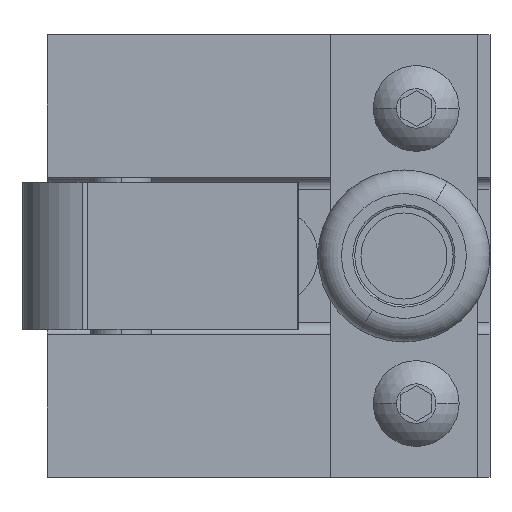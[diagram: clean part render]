
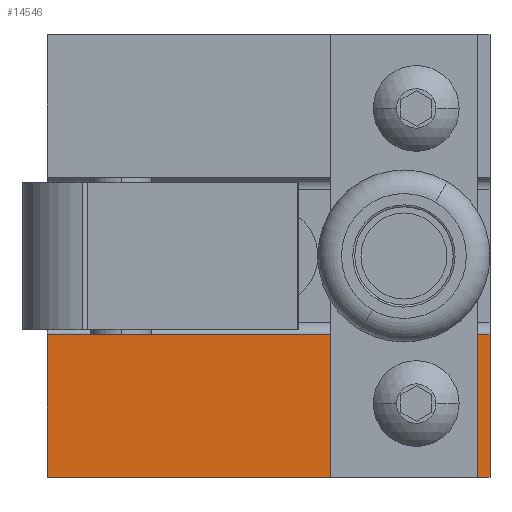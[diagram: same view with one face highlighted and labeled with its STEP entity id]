
A CAD part, left-side view. The second image highlights one B-rep face of the part: STEP entity #14546.
In plain terms, the highlighted planar face has unit normal (-1, 0, 0).
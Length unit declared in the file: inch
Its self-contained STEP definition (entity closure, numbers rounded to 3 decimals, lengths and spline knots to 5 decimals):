
#11769 = CARTESIAN_POINT ( 'NONE',  ( 2.43951, 4.12904, -1.75 ) ) ;
#11770 = CARTESIAN_POINT ( 'NONE',  ( 2.43951, 4.12904, -2. ) ) ;
#11794 = DIRECTION ( 'NONE',  ( 0., 0., 1. ) ) ;
#11795 = DIRECTION ( 'NONE',  ( -1., 0., 0. ) ) ;
#11796 = AXIS2_PLACEMENT_3D ( 'NONE', #11944, #11795, #11794 ) ;
#11797 = CIRCLE ( 'NONE', #11796, 0.125 ) ;
#11944 = CARTESIAN_POINT ( 'NONE',  ( 2.43951, 4.12904, -1.875 ) ) ;
#13572 = VERTEX_POINT ( 'NONE', #22166 ) ;
#13685 = EDGE_CURVE ( 'NONE', #13711, #13572, #22468, .T. ) ;
#13711 = VERTEX_POINT ( 'NONE', #22931 ) ;
#14401 = ORIENTED_EDGE ( 'NONE', *, *, #14402, .F. ) ;
#14402 = EDGE_CURVE ( 'NONE', #13572, #14488, #20001, .T. ) ;
#14406 = ORIENTED_EDGE ( 'NONE', *, *, #21936, .F. ) ;
#14464 = EDGE_LOOP ( 'NONE', ( #14401, #14489, #14465, #14514 ) ) ;
#14465 = ORIENTED_EDGE ( 'NONE', *, *, #14466, .T. ) ;
#14466 = EDGE_CURVE ( 'NONE', #13711, #14467, #20776, .T. ) ;
#14467 = VERTEX_POINT ( 'NONE', #20769 ) ;
#14488 = VERTEX_POINT ( 'NONE', #21319 ) ;
#14489 = ORIENTED_EDGE ( 'NONE', *, *, #13685, .F. ) ;
#14493 = EDGE_LOOP ( 'NONE', ( #14494, #14406 ) ) ;
#14494 = ORIENTED_EDGE ( 'NONE', *, *, #14495, .F. ) ;
#14495 = EDGE_CURVE ( 'NONE', #21841, #21840, #21193, .T. ) ;
#14514 = ORIENTED_EDGE ( 'NONE', *, *, #14515, .T. ) ;
#14515 = EDGE_CURVE ( 'NONE', #14467, #14488, #21113, .T. ) ;
#14546 = ADVANCED_FACE ( 'NONE', ( #21642, #21557 ), #21768, .T. ) ;
#19955 = DIRECTION ( 'NONE',  ( 0., -1., 0. ) ) ;
#19998 = VECTOR ( 'NONE', #19955, 39.37008 ) ;
#19999 = CARTESIAN_POINT ( 'NONE',  ( 2.43951, 3.75404, -1.525 ) ) ;
#20001 = LINE ( 'NONE', #19999, #19998 ) ;
#20769 = CARTESIAN_POINT ( 'NONE',  ( 2.43951, 3.75404, -2.25 ) ) ;
#20771 = DIRECTION ( 'NONE',  ( 0., -1., 0. ) ) ;
#20773 = VECTOR ( 'NONE', #20771, 39.37008 ) ;
#20775 = CARTESIAN_POINT ( 'NONE',  ( 2.43951, 3.75404, -2.25 ) ) ;
#20776 = LINE ( 'NONE', #20775, #20773 ) ;
#21065 = DIRECTION ( 'NONE',  ( 0., 0., 1. ) ) ;
#21067 = DIRECTION ( 'NONE',  ( -1., 0., 0. ) ) ;
#21069 = CARTESIAN_POINT ( 'NONE',  ( 2.43951, 4.12904, -1.875 ) ) ;
#21108 = DIRECTION ( 'NONE',  ( 0., 0., 1. ) ) ;
#21110 = VECTOR ( 'NONE', #21108, 39.37008 ) ;
#21111 = CARTESIAN_POINT ( 'NONE',  ( 2.43951, 3.75404, -2.25 ) ) ;
#21113 = LINE ( 'NONE', #21111, #21110 ) ;
#21193 = CIRCLE ( 'NONE', #21314, 0.125 ) ;
#21314 = AXIS2_PLACEMENT_3D ( 'NONE', #21069, #21067, #21065 ) ;
#21319 = CARTESIAN_POINT ( 'NONE',  ( 2.43951, 3.75404, -1.525 ) ) ;
#21557 = FACE_OUTER_BOUND ( 'NONE', #14464, .T. ) ;
#21642 = FACE_BOUND ( 'NONE', #14493, .T. ) ;
#21714 = DIRECTION ( 'NONE',  ( 0., 0., 1. ) ) ;
#21715 = DIRECTION ( 'NONE',  ( -1., 0., 0. ) ) ;
#21716 = CARTESIAN_POINT ( 'NONE',  ( 2.43951, 3.75404, -2.25 ) ) ;
#21765 = AXIS2_PLACEMENT_3D ( 'NONE', #21716, #21715, #21714 ) ;
#21768 = PLANE ( 'NONE',  #21765 ) ;
#21840 = VERTEX_POINT ( 'NONE', #11770 ) ;
#21841 = VERTEX_POINT ( 'NONE', #11769 ) ;
#21936 = EDGE_CURVE ( 'NONE', #21840, #21841, #11797, .T. ) ;
#22166 = CARTESIAN_POINT ( 'NONE',  ( 2.43951, 6.00404, -1.525 ) ) ;
#22465 = DIRECTION ( 'NONE',  ( 0., 0., 1. ) ) ;
#22466 = VECTOR ( 'NONE', #22465, 39.37008 ) ;
#22467 = CARTESIAN_POINT ( 'NONE',  ( 2.43951, 6.00404, -2.25 ) ) ;
#22468 = LINE ( 'NONE', #22467, #22466 ) ;
#22931 = CARTESIAN_POINT ( 'NONE',  ( 2.43951, 6.00404, -2.25 ) ) ;
